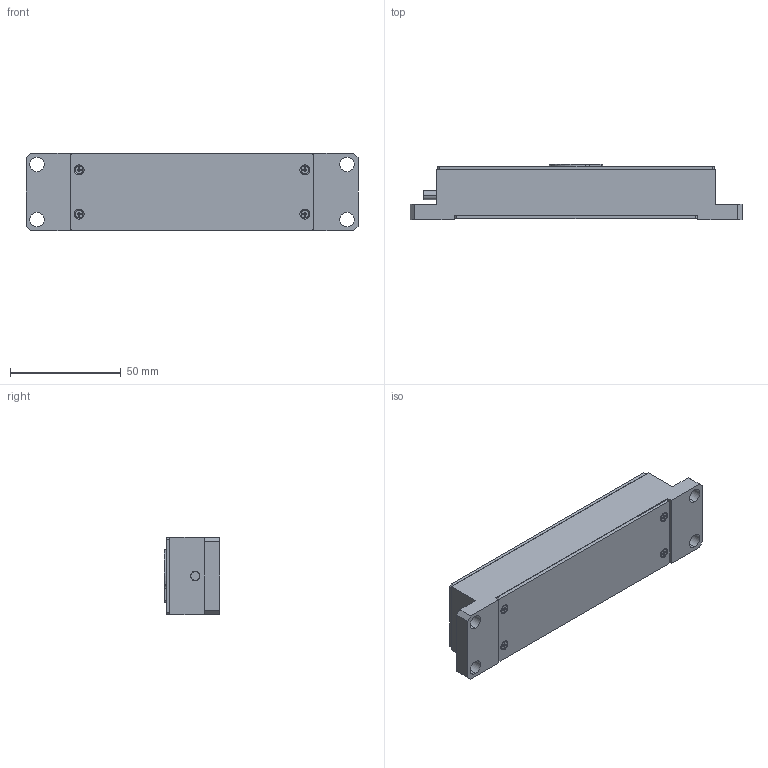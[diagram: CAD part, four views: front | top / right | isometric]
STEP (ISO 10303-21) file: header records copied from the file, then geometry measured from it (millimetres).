
FILE_DESCRIPTION (( 'STEP AP214' ), '1' );
FILE_NAME ('S20A.R1-A1俋倛-25.05.26.STEP', '2025-05-26T01:07:19', ( '' ), ( '' ), 'SwSTEP 2.0', 'SolidWorks 2016', '' );
FILE_SCHEMA (( 'AUTOMOTIVE_DESIGN' ));
Length unit declared in the file: millimetre
Products named in the file (1): S20A.R1-A1俋倛-25.05.26
Bounding box: 150 x 25 x 35 mm (x, y, z)
Volume: 105374.5 mm3; surface area: 35798.8 mm2
Topology: 4 solids, 4 shells, 336 faces, 862 edges, 558 vertices
Faces by surface type: plane 172, cylinder 122, cone 42
Entity records: 13993 total; most frequent: DIRECTION 1814, CARTESIAN_POINT 1757, ORIENTED_EDGE 1724, EDGE_CURVE 862, AXIS2_PLACEMENT_3D 615, LINE 584, VECTOR 584, VERTEX_POINT 558
